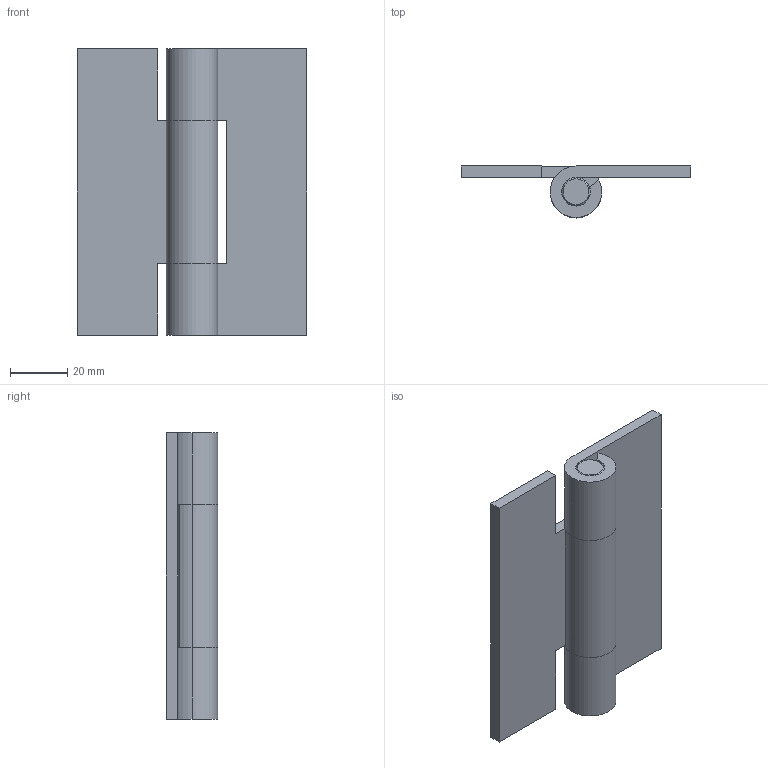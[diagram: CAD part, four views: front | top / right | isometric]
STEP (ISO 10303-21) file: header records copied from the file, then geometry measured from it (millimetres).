
FILE_DESCRIPTION((''),'2;1');
FILE_NAME('99.100.80.30.stp','2015-07-20T11:53:41',(''),(''),'Mechanical Desktop 2006','Mechanical Desktop 2006',', , ');
FILE_SCHEMA(('CONFIG_CONTROL_DESIGN'));
Length unit declared in the file: millimetre
Products named in the file (4): 99.100.80.30; ~TEIL1; ~~TEIL1; TEIL1
Assembly tree (3 placements, depth 2):
  99.100.80.30
    ~TEIL1
    ~~TEIL1
    TEIL1
Bounding box: 80 x 18 x 100 mm (x, y, z)
Volume: 49598.4 mm3; surface area: 27375.7 mm2
Topology: 3 solids, 3 shells, 46 faces, 116 edges, 76 vertices
Faces by surface type: plane 22, cylinder 20, cone 4
Entity records: 1529 total; most frequent: DIRECTION 260, CARTESIAN_POINT 242, ORIENTED_EDGE 232, EDGE_CURVE 116, AXIS2_PLACEMENT_3D 94, VERTEX_POINT 76, VECTOR 72, LINE 72
